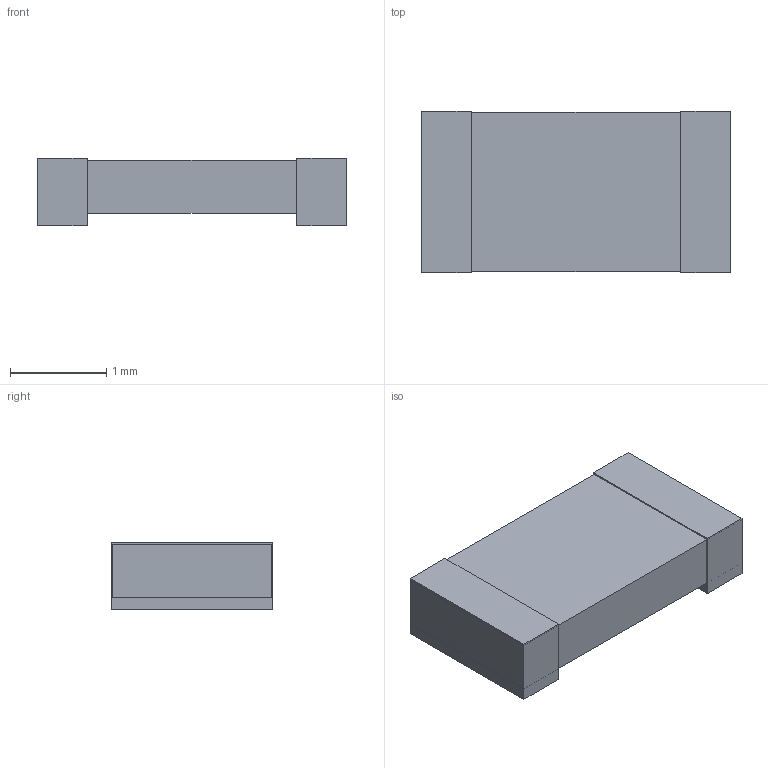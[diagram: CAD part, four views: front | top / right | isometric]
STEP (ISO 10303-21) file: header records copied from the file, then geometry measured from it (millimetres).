
FILE_DESCRIPTION(('FreeCAD Model'),'2;1');
FILE_NAME('Open CASCADE Shape Model','2026-09-21T21:53:17',('FreeCAD'),( 'FreeCAD'),'Open CASCADE STEP processor 7.8','FreeCAD','Unknown');
FILE_SCHEMA(('AUTOMOTIVE_DESIGN { 1 0 10303 214 1 1 1 1 }'));
Length unit declared in the file: millimetre
Products named in the file (1): Open CASCADE STEP translator 7.8 3
Bounding box: 3.2 x 1.67 x 0.7 mm (x, y, z)
Surface area: 25.4 mm2
Topology: 3 solids, 3 shells, 18 faces, 36 edges, 24 vertices
Faces by surface type: plane 18
Entity records: 466 total; most frequent: CARTESIAN_POINT 79, DIRECTION 74, ORIENTED_EDGE 72, EDGE_CURVE 36, LINE 36, VECTOR 36, VERTEX_POINT 24, AXIS2_PLACEMENT_3D 19
